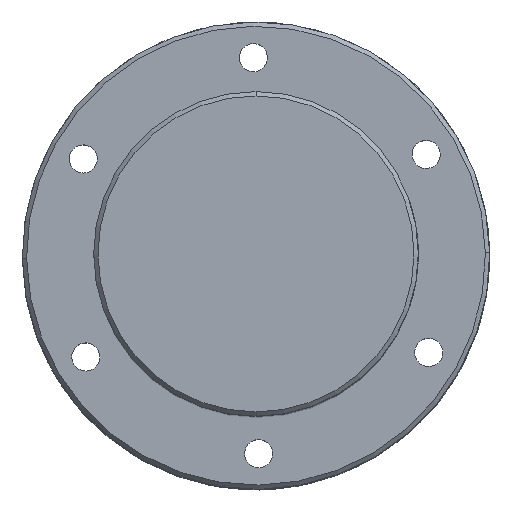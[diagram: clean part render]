
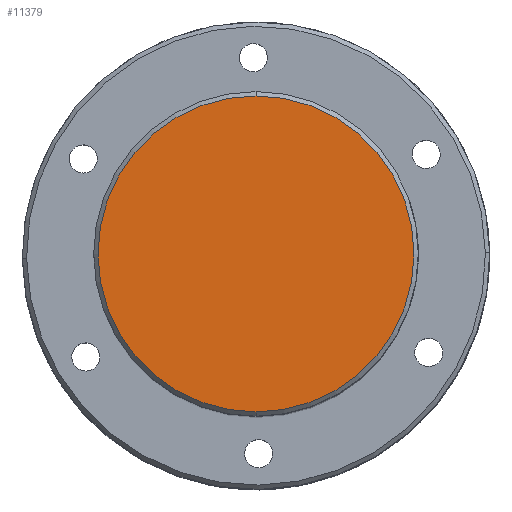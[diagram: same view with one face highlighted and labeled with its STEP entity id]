
A CAD part, top view. The second image highlights one B-rep face of the part: STEP entity #11379.
In plain terms, the highlighted planar face has unit normal (0, 0, 1) as drawn and (-1, 0, 0) by its records, which use the part's own axes.
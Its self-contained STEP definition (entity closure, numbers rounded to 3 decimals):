
#778 = EDGE_CURVE ( 'NONE', #9419, #5315, #6314, .T. ) ;
#1446 = CARTESIAN_POINT ( 'NONE',  ( 0., 0., 36.5 ) ) ;
#2800 = AXIS2_PLACEMENT_3D ( 'NONE', #5620, #7094, #4216 ) ;
#2847 = AXIS2_PLACEMENT_3D ( 'NONE', #15565, #14322, #9969 ) ;
#4216 = DIRECTION ( 'NONE',  ( 0., 0., -1. ) ) ;
#4881 = DIRECTION ( 'NONE',  ( 1., 0., 0. ) ) ;
#5154 = AXIS2_PLACEMENT_3D ( 'NONE', #7314, #4881, #11552 ) ;
#5315 = VERTEX_POINT ( 'NONE', #1446 ) ;
#5620 = CARTESIAN_POINT ( 'NONE',  ( 0., 0., 0. ) ) ;
#6314 = CIRCLE ( 'NONE', #2800, 36.5 ) ;
#7094 = DIRECTION ( 'NONE',  ( -1., 0., 0. ) ) ;
#7314 = CARTESIAN_POINT ( 'NONE',  ( 0., 0., 0. ) ) ;
#8127 = ORIENTED_EDGE ( 'NONE', *, *, #13610, .T. ) ;
#8278 = EDGE_LOOP ( 'NONE', ( #9470, #8127 ) ) ;
#9419 = VERTEX_POINT ( 'NONE', #16695 ) ;
#9470 = ORIENTED_EDGE ( 'NONE', *, *, #778, .T. ) ;
#9969 = DIRECTION ( 'NONE',  ( 0., 0., -1. ) ) ;
#11379 = ADVANCED_FACE ( 'NONE', ( #13992 ), #16743, .F. ) ;
#11552 = DIRECTION ( 'NONE',  ( 0., 0., -1. ) ) ;
#11820 = CIRCLE ( 'NONE', #2847, 36.5 ) ;
#13610 = EDGE_CURVE ( 'NONE', #5315, #9419, #11820, .T. ) ;
#13992 = FACE_OUTER_BOUND ( 'NONE', #8278, .T. ) ;
#14322 = DIRECTION ( 'NONE',  ( -1., 0., 0. ) ) ;
#15565 = CARTESIAN_POINT ( 'NONE',  ( 0., 0., 0. ) ) ;
#16695 = CARTESIAN_POINT ( 'NONE',  ( 0., 0., -36.5 ) ) ;
#16743 = PLANE ( 'NONE',  #5154 ) ;
